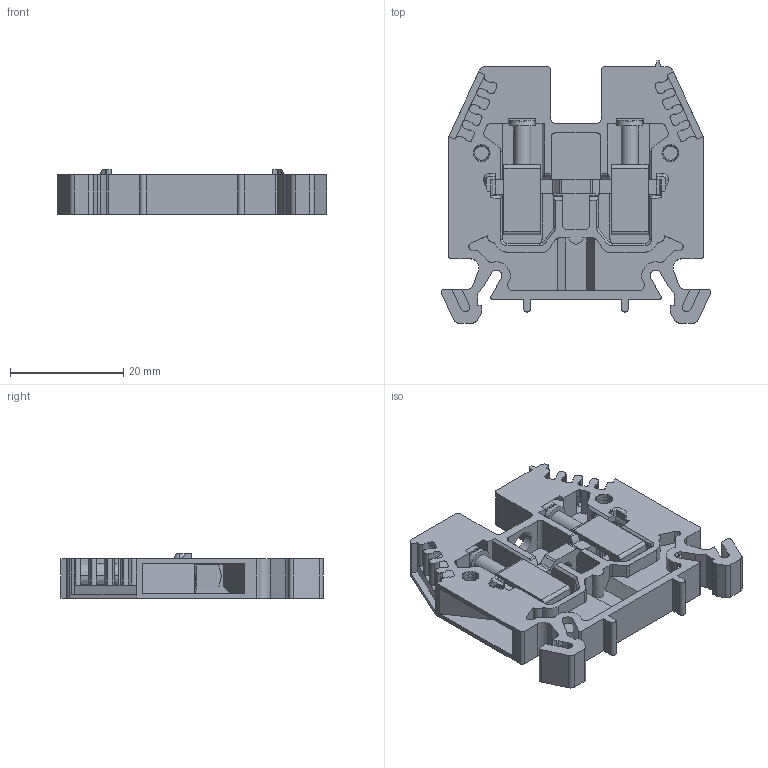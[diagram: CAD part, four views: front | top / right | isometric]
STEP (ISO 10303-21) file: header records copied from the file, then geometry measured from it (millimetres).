
FILE_DESCRIPTION((''),'2;1');
FILE_NAME('42164-522_SW0001','2012-06-19T',('mguelmi'),('Rockwell Automation'),'PRO/ENGINEER BY PARAMETRIC TECHNOLOGY CORPORATION, 2010140','PRO/ENGINEER BY PARAMETRIC TECHNOLOGY CORPORATION, 2010140','');
FILE_SCHEMA(('CONFIG_CONTROL_DESIGN'));
Length unit declared in the file: inch
Products named in the file (1): 42164-522_SW0001
Bounding box: 47.72 x 46.35 x 7.9 mm (x, y, z)
Surface area: 8244 mm2 (no closed solid volume)
Topology: 0 solids, 11 shells, 368 faces, 1398 edges, 999 vertices
Faces by surface type: plane 221, cylinder 105, cone 36, torus 4, sphere 2
Entity records: 14781 total; most frequent: CARTESIAN_POINT 2843, DIRECTION 2524, ORIENTED_EDGE 2302, EDGE_CURVE 1396, VERTEX_POINT 999, VECTOR 972, LINE 972, AXIS2_PLACEMENT_3D 776
